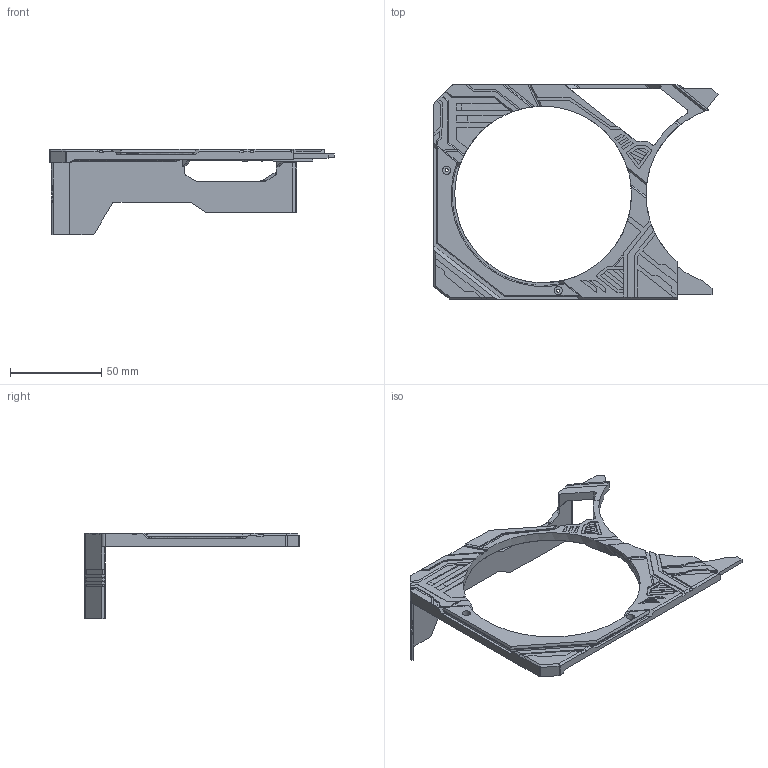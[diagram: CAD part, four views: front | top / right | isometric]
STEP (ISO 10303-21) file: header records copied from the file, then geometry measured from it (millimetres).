
FILE_DESCRIPTION((''),'2;1');
FILE_NAME('C02','2022-11-04T11:00:16',('Kate'),(''),'CREO PARAMETRIC BY PTC INC, 2020281','CREO PARAMETRIC BY PTC INC, 2020281','');
FILE_SCHEMA(('AUTOMOTIVE_DESIGN { 1 0 10303 214 1 1 1 1 }'));
Length unit declared in the file: millimetre
Products named in the file (1): C02
Bounding box: 156.11 x 117.6 x 46.83 mm (x, y, z)
Volume: 34670.5 mm3; surface area: 27830.2 mm2
Topology: 1 solids, 1 shells, 434 faces, 1250 edges, 821 vertices
Faces by surface type: plane 333, cylinder 64, cone 17, torus 12, extrusion 4, bspline 3, revolution 1
Entity records: 19881 total; most frequent: CARTESIAN_POINT 3174, ORIENTED_EDGE 2496, DIRECTION 2152, PRESENTATION_STYLE_ASSIGNMENT 1380, STYLED_ITEM 1249, CURVE_STYLE 1248, EDGE_CURVE 1248, VECTOR 963
